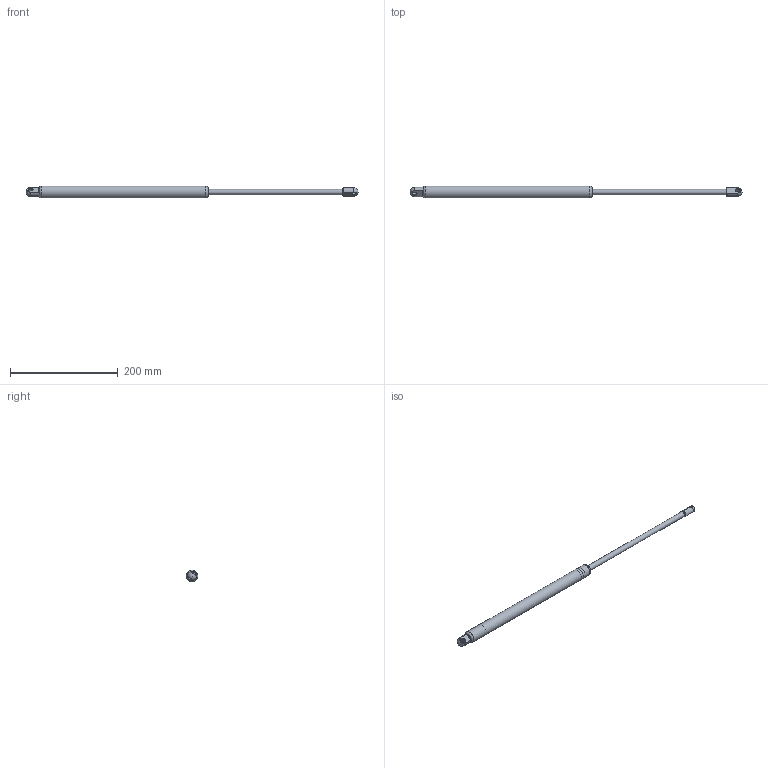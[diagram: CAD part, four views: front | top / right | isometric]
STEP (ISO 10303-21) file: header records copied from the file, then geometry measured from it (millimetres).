
FILE_DESCRIPTION(/* description */ ('STEP AP214'),/* implementation_level */ '2;1');
FILE_NAME(/* name */ 'C:\Users\marco.dallariva\Desktop\Molle a Gas\A1A142250600.320.stp',/* time_stamp */ '2022-06-13T16:50:56+02:00',/* author */ ('marco.dallariva'),/* organization */ ('CADENAS'),/* preprocessor_version */ 'ST-DEVELOPER v18.1',/* originating_system */ 'Autodesk Inventor 2021',/* authorisation */ ' ');
FILE_SCHEMA (('AUTOMOTIVE_DESIGN { 1 0 10303 214 3 1 1 }'));
Length unit declared in the file: millimetre
Products named in the file (5): Bansbach+A1A1-42-250-600--0XX_320N(018); _-10_22(2501018A1); _A1-10_22(2501018); _A110AK; _A122AZ
Assembly tree (4 placements, depth 2):
  Bansbach+A1A1-42-250-600--0XX_320N(018)
    _-10_22(2501018A1)
    _A1-10_22(2501018)
    _A110AK
    _A122AZ
Bounding box: 616.5 x 22 x 22 mm (x, y, z)
Volume: 67462 mm3; surface area: 52903.9 mm2
Topology: 4 solids, 4 shells, 50 faces, 104 edges, 67 vertices
Faces by surface type: plane 19, cylinder 16, cone 11, torus 2, sphere 2
Full cylindrical faces by diameter (mm): 8 x1, 8.2 x2, 8.376 x1, 8.4 x1, 10 x2, 16.8 x1, 17 x1, 17.8 x1, 19.8 x3, 22 x1
Entity records: 1582 total; most frequent: DIRECTION 277, CARTESIAN_POINT 235, ORIENTED_EDGE 202, AXIS2_PLACEMENT_3D 121, EDGE_CURVE 101, VERTEX_POINT 67, EDGE_LOOP 62, CIRCLE 62
